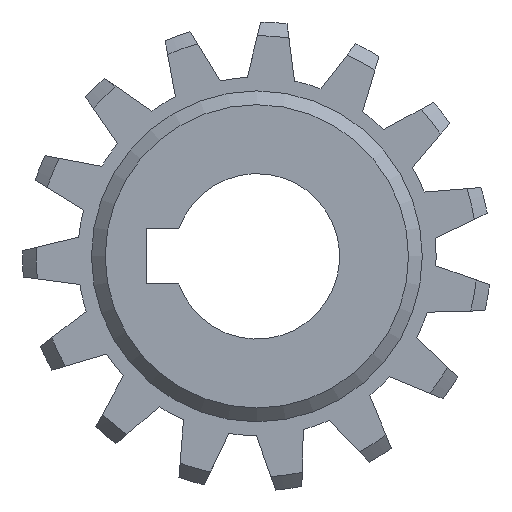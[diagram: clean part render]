
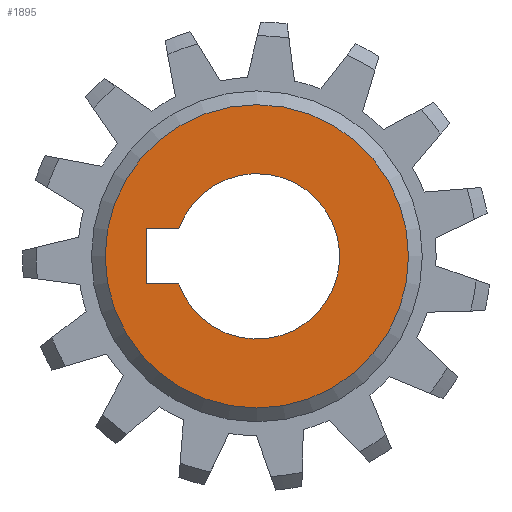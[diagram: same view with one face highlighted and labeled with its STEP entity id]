
A CAD part, left-side view. The second image highlights one B-rep face of the part: STEP entity #1895.
In plain terms, the highlighted planar face has unit normal (-1, 0, 0).
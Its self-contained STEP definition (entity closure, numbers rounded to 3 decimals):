
#48=FACE_BOUND('',#376,.T.);
#142=CIRCLE('',#2106,6.);
#145=CIRCLE('',#2110,11.);
#274=FACE_OUTER_BOUND('',#375,.T.);
#375=EDGE_LOOP('',(#1748));
#376=EDGE_LOOP('',(#1749,#1750,#1751,#1752));
#500=LINE('',#3309,#632);
#506=LINE('',#3321,#638);
#507=LINE('',#3323,#639);
#632=VECTOR('',#2601,10.);
#638=VECTOR('',#2609,10.);
#639=VECTOR('',#2612,10.);
#885=VERTEX_POINT('',#3305);
#887=VERTEX_POINT('',#3308);
#890=VERTEX_POINT('',#3315);
#892=VERTEX_POINT('',#3319);
#895=VERTEX_POINT('',#3335);
#1168=EDGE_CURVE('',#887,#885,#500,.T.);
#1174=EDGE_CURVE('',#890,#892,#506,.T.);
#1175=EDGE_CURVE('',#892,#887,#507,.T.);
#1179=EDGE_CURVE('',#885,#890,#142,.T.);
#1183=EDGE_CURVE('',#895,#895,#145,.T.);
#1748=ORIENTED_EDGE('',*,*,#1183,.F.);
#1749=ORIENTED_EDGE('',*,*,#1168,.T.);
#1750=ORIENTED_EDGE('',*,*,#1179,.T.);
#1751=ORIENTED_EDGE('',*,*,#1174,.T.);
#1752=ORIENTED_EDGE('',*,*,#1175,.T.);
#1798=PLANE('',#2111);
#1895=ADVANCED_FACE('',(#274,#48),#1798,.T.);
#2106=AXIS2_PLACEMENT_3D('',#3329,#2622,#2623);
#2110=AXIS2_PLACEMENT_3D('',#3337,#2631,#2632);
#2111=AXIS2_PLACEMENT_3D('',#3338,#2633,#2634);
#2601=DIRECTION('',(0.,-1.,0.));
#2609=DIRECTION('',(0.,1.,0.));
#2612=DIRECTION('',(0.,0.,1.));
#2622=DIRECTION('center_axis',(1.,0.,0.));
#2623=DIRECTION('ref_axis',(0.,0.,-1.));
#2631=DIRECTION('center_axis',(1.,0.,0.));
#2632=DIRECTION('ref_axis',(0.,-1.,0.));
#2633=DIRECTION('center_axis',(-1.,0.,0.));
#2634=DIRECTION('ref_axis',(0.,0.,1.));
#3305=CARTESIAN_POINT('',(-7.5,5.657,2.));
#3308=CARTESIAN_POINT('',(-7.5,8.,2.));
#3309=CARTESIAN_POINT('',(-7.5,8.,2.));
#3315=CARTESIAN_POINT('',(-7.5,5.657,-2.));
#3319=CARTESIAN_POINT('',(-7.5,8.,-2.));
#3321=CARTESIAN_POINT('',(-7.5,10.,-2.));
#3323=CARTESIAN_POINT('',(-7.5,8.,1.));
#3329=CARTESIAN_POINT('Origin',(-7.5,0.,0.));
#3335=CARTESIAN_POINT('',(-7.5,11.,0.));
#3337=CARTESIAN_POINT('Origin',(-7.5,0.,0.));
#3338=CARTESIAN_POINT('Origin',(-7.5,12.,0.));
